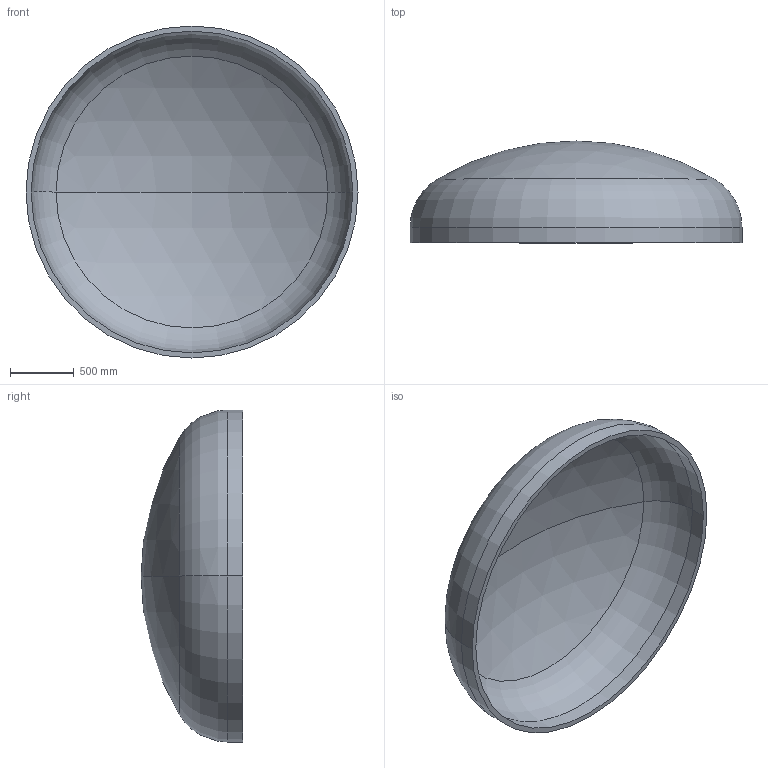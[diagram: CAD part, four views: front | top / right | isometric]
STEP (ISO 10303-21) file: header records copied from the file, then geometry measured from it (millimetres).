
FILE_DESCRIPTION (( 'STEP AP203' ), '1' );
FILE_NAME ('DIN 28013 Korbbogenform_-_Boden DIN 28013 - 2600 x 120 - I - s=40.step', '2016-07-01T16:10:25', ( '' ), ( '' ), 'SwSTEP 2.0', 'SolidWorks 2013', '' );
FILE_SCHEMA (( 'CONFIG_CONTROL_DESIGN' ));
Length unit declared in the file: millimetre
Products named in the file (1): DIN 28013 Korbbogenform_-_Boden DIN 28013 - 2600 x 120 - I - s=40
Bounding box: 2600 x 796.81 x 2600 mm (x, y, z)
Volume: 326764387.3 mm3; surface area: 16663263.9 mm2
Topology: 1 solids, 1 shells, 13 faces, 24 edges, 14 vertices
Faces by surface type: torus 4, cylinder 4, sphere 4, plane 1
Entity records: 407 total; most frequent: DIRECTION 72, CARTESIAN_POINT 52, ORIENTED_EDGE 48, AXIS2_PLACEMENT_3D 34, EDGE_CURVE 24, CIRCLE 20, VERTEX_POINT 14, EDGE_LOOP 14
